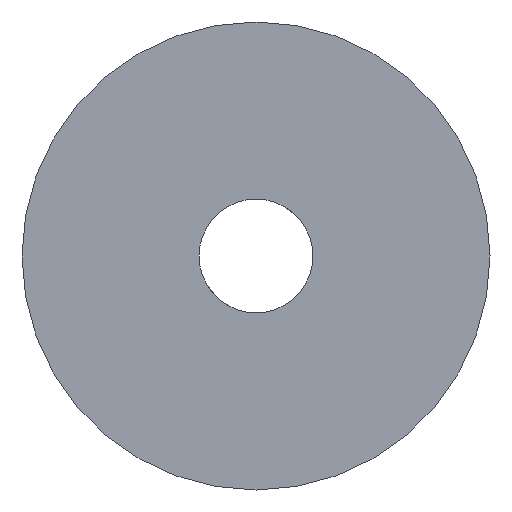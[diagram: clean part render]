
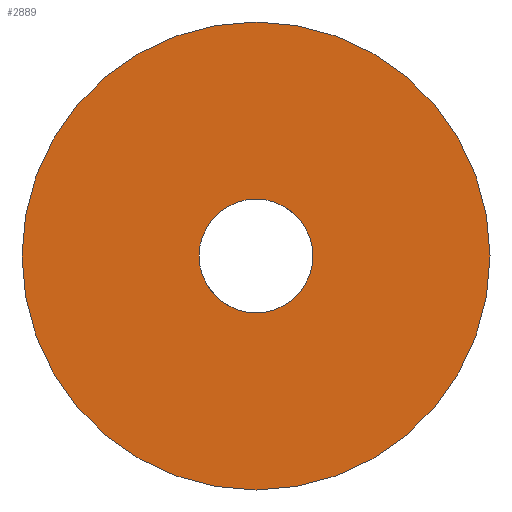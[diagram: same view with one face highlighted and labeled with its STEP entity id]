
A CAD part, front view. The second image highlights one B-rep face of the part: STEP entity #2889.
In plain terms, the highlighted planar face has unit normal (0, -1, 0).
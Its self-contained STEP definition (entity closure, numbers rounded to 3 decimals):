
#387=PLANE('',#3201);
#392=FACE_BOUND('',#878,.T.);
#396=CIRCLE('',#2925,3.175);
#548=CIRCLE('',#3202,13.05);
#748=FACE_OUTER_BOUND('',#877,.T.);
#877=EDGE_LOOP('',(#2456));
#878=EDGE_LOOP('',(#2457));
#1313=VERTEX_POINT('',#4471);
#1541=VERTEX_POINT('',#5335);
#1567=EDGE_CURVE('',#1313,#1313,#396,.T.);
#1917=EDGE_CURVE('',#1541,#1541,#548,.T.);
#2456=ORIENTED_EDGE('',*,*,#1917,.F.);
#2457=ORIENTED_EDGE('',*,*,#1567,.T.);
#2889=ADVANCED_FACE('',(#748,#392),#387,.T.);
#2925=AXIS2_PLACEMENT_3D('',#4473,#3320,#3321);
#3201=AXIS2_PLACEMENT_3D('',#5334,#4053,#4054);
#3202=AXIS2_PLACEMENT_3D('',#5336,#4055,#4056);
#3320=DIRECTION('center_axis',(0.,1.,0.));
#3321=DIRECTION('ref_axis',(1.,0.,0.));
#4053=DIRECTION('center_axis',(0.,-1.,0.));
#4054=DIRECTION('ref_axis',(0.,0.,-1.));
#4055=DIRECTION('center_axis',(0.,1.,0.));
#4056=DIRECTION('ref_axis',(1.,0.,0.));
#4471=CARTESIAN_POINT('',(-3.175,0.,0.));
#4473=CARTESIAN_POINT('Origin',(0.,0.,0.));
#5334=CARTESIAN_POINT('Origin',(13.05,0.,0.));
#5335=CARTESIAN_POINT('',(-13.05,0.,0.));
#5336=CARTESIAN_POINT('Origin',(0.,0.,
0.));
